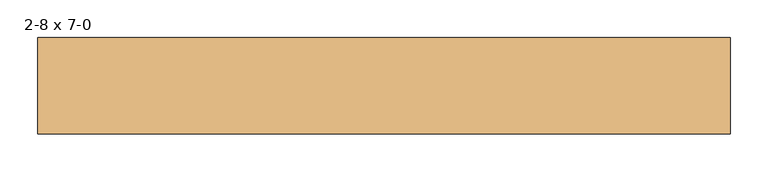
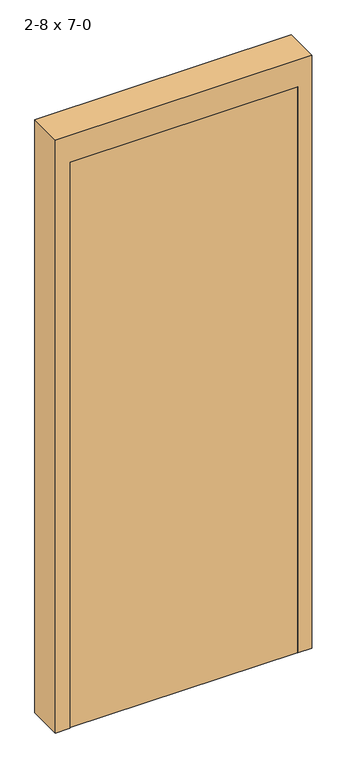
"""IFC4 building model written with IfcOpenShell, lengths in millimetres: door geometry, Butt Frame_S_BA : 2-8 x 7-0."""

from ifc_helpers import new_model, si_unit, origin, origin_with_axes, place, context, project, spatial, polyline, outline, extrude, faceted_brep, source, transform, mapped, element, save


def door_2_8_x_7_0_b9f3dcf3(model_context):
    return source(origin(), model_context, "Body", "SolidModel", [
        extrude(outline(polyline([(889.0, -54.76875), (889.0, -99.21875), (76.2, -99.21875), (76.2, -54.76875), (889.0, -54.76875)])), origin_with_axes(), (0.0, 0.0, 1.0), 2133.6),
        faceted_brep([(76.2, 25.4, 0.0), (76.2, -23.8125, 0.0), (92.075, -23.8125, 0.0), (92.075, -52.3875, 0.0), (76.2, -52.3875, 0.0), (76.2, -101.6, 0.0), (25.4, -101.6, 0.0), (25.4, 25.4, 0.0), (889.0, 25.4, 0.0), (939.8, 25.4, 0.0), (939.8, -101.6, 0.0), (889.0, -101.6, 0.0), (889.0, -52.3875, 0.0), (873.125, -52.3875, 0.0), (873.125, -23.8125, 0.0), (889.0, -23.8125, 0.0), (25.4, 25.4, 2235.2), (939.8, 25.4, 2235.2), (889.0, 25.4, 2133.6), (76.2, 25.4, 2133.6), (25.4, -101.6, 2235.2), (76.2, -101.6, 2133.6), (889.0, -101.6, 2133.6), (939.8, -101.6, 2235.2), (76.2, -52.3875, 2133.6), (92.075, -52.3875, 2117.725), (873.125, -52.3875, 2117.725), (889.0, -52.3875, 2133.6), (92.075, -23.8125, 2117.725), (76.2, -23.8125, 2133.6), (889.0, -23.8125, 2133.6), (873.125, -23.8125, 2117.725)], [[[0, 1, 2, 3, 4, 5, 6, 7]], [[8, 9, 10, 11, 12, 13, 14, 15]], [[16, 17, 9, 8, 18, 19, 0, 7]], [[20, 16, 7, 6]], [[5, 21, 22, 11, 10, 23, 20, 6]], [[24, 21, 5, 4]], [[3, 25, 26, 13, 12, 27, 24, 4]], [[2, 28, 25, 3]], [[1, 29, 30, 15, 14, 31, 28, 2]], [[0, 19, 29, 1]], [[30, 18, 8, 15]], [[13, 26, 31, 14]], [[11, 22, 27, 12]], [[17, 23, 10, 9]], [[18, 30, 29, 19]], [[25, 28, 31, 26]], [[21, 24, 27, 22]], [[17, 16, 20, 23]]]),
    ])


if __name__ == "__main__":
    model = new_model("IFC4")
    model_context = context("Model", 3, world=origin())
    ifc_project = project(units=[si_unit("LENGTHUNIT", "METRE", prefix="MILLI")], contexts=[model_context])
    site = spatial("IfcSite", under=ifc_project)
    building = spatial("IfcBuilding", under=site)
    placement = place(None, origin())
    door_2_8_x_7_0_shape = door_2_8_x_7_0_b9f3dcf3(model_context)
    element("IfcDoor", 1, ObjectType="Butt Frame_S_BA : 2-8 x 7-0", at=placement, inside=building, context=model_context, shape_type="MappedRepresentation", body=[
        mapped(door_2_8_x_7_0_shape, transform((0.0, 0.0, 0.0), x_axis=(1.0, 0.0, 0.0), y_axis=(0.0, 1.0, 0.0), z_axis=(0.0, 0.0, 1.0))),
    ])
    save(model, "model.ifc")
